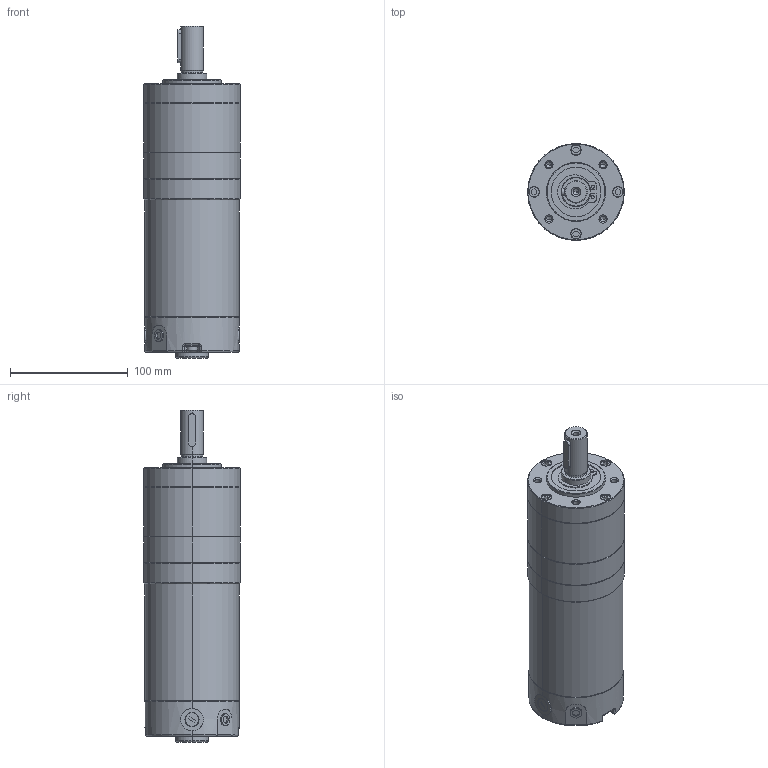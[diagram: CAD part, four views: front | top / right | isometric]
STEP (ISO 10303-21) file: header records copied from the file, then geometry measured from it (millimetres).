
FILE_DESCRIPTION (( 'STEP AP203' ), '1' );
FILE_NAME ('82ZPN衄芃媼撰熬厒.STEP', '2021-07-17T08:20:37', ( '' ), ( '' ), 'SwSTEP 2.0', 'SolidWorks 2021', '' );
FILE_SCHEMA (( 'CONFIG_CONTROL_DESIGN' ));
Length unit declared in the file: millimetre
Products named in the file (1): 82ZPN衄芃媼撰熬厒
Bounding box: 82 x 82 x 281.5 mm (x, y, z)
Volume: 1187583.4 mm3; surface area: 76370.9 mm2
Topology: 1 solids, 1 shells, 312 faces, 719 edges, 437 vertices
Faces by surface type: plane 126, cylinder 108, cone 52, torus 18, bspline 4, sphere 4
Entity records: 9270 total; most frequent: CARTESIAN_POINT 2094, DIRECTION 1556, ORIENTED_EDGE 1402, EDGE_CURVE 701, AXIS2_PLACEMENT_3D 582, VERTEX_POINT 433, LINE 392, VECTOR 392
